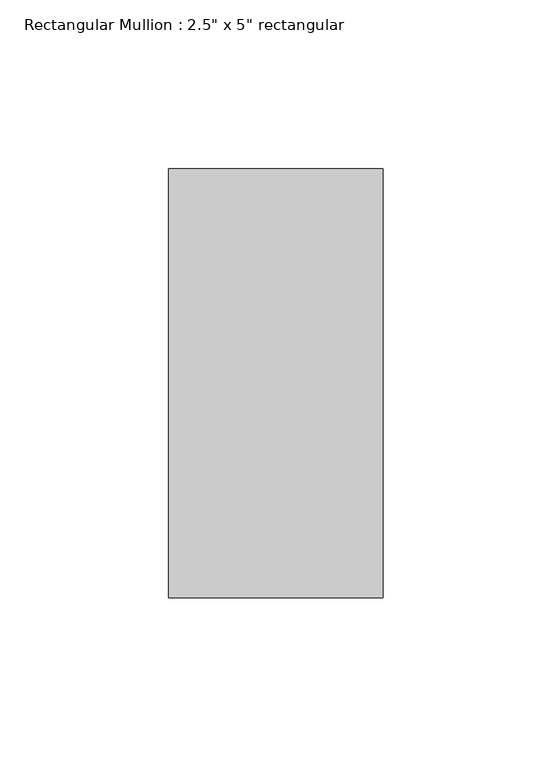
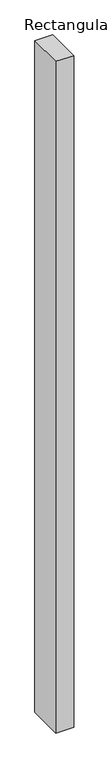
"""IFC4 building model written with IfcOpenShell, lengths in millimetres: member geometry."""

from ifc_helpers import new_model, si_unit, frame, origin, place, context, project, spatial, polyline, outline, extrude, source, transform, mapped, element, save


def member_8004e742(model_context):
    return source(origin(), model_context, "Body", "SweptSolid", [
        extrude(outline(polyline([(31.75, 63.5), (31.75, -63.5), (-31.75, -63.5), (-31.75, 63.5), (31.75, 63.5)])), frame((0.0, 0.0, -2507.9521674), z_axis=(0.0, 0.0, 1.0), x_axis=(1.0, 0.0, 0.0)), (0.0, 0.0, 1.0), 2507.9521674),
    ])


if __name__ == "__main__":
    model = new_model("IFC4")
    model_context = context("Model", 3, world=origin())
    ifc_project = project(units=[si_unit("LENGTHUNIT", "METRE", prefix="MILLI")], contexts=[model_context])
    site = spatial("IfcSite", under=ifc_project)
    building = spatial("IfcBuilding", under=site)
    placement = place(None, origin())
    member_shape = member_8004e742(model_context)
    element("IfcMember", 1, ObjectType="Rectangular Mullion : 2.5\" x 5\" rectangular", at=placement, inside=building, context=model_context, shape_type="MappedRepresentation", body=[
        mapped(member_shape, transform((0.0, 0.0, 0.0), x_axis=(1.0, 0.0, 0.0), y_axis=(0.0, 1.0, 0.0), z_axis=(0.0, 0.0, 1.0))),
    ])
    save(model, "model.ifc")
